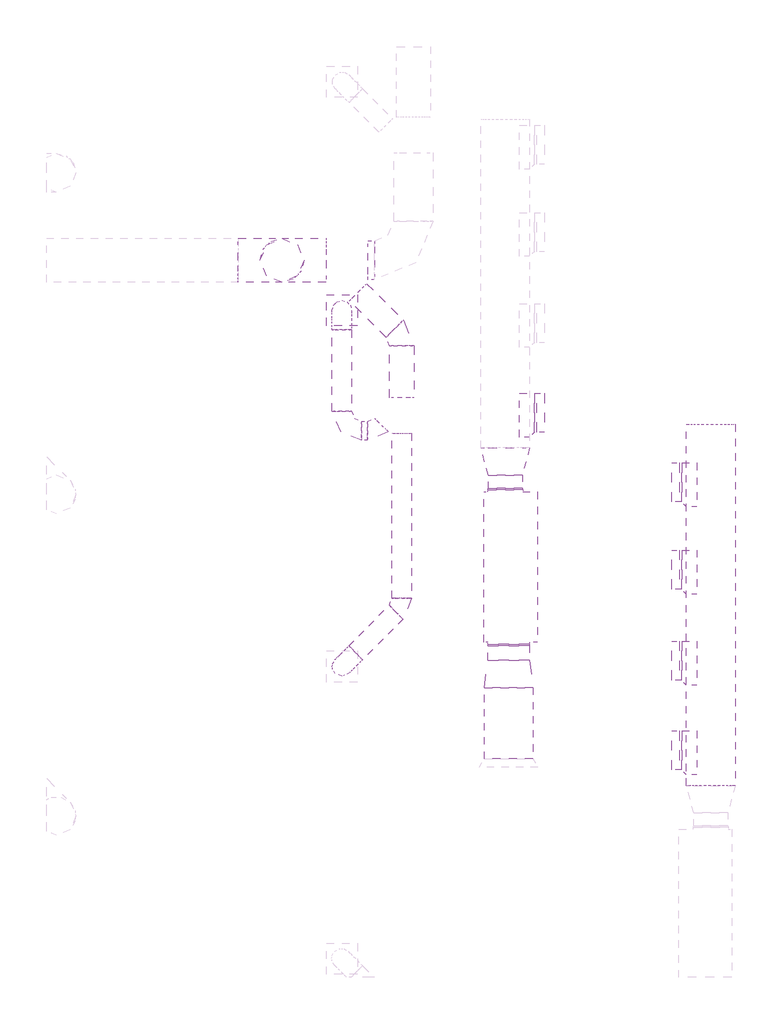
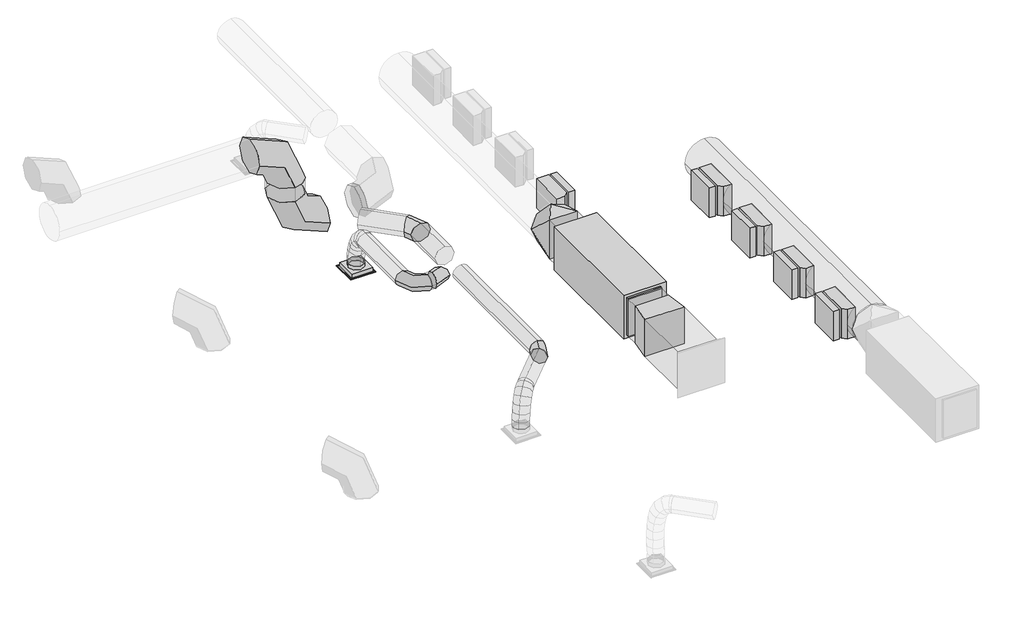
# One storey, part 29 of 33: 19 duct segments, 15 duct fittings, 6 air terminals, 1 proxy.
"""IFC4 building model written with IfcOpenShell, lengths in millimetres."""

from ifc_helpers import new_model, si_unit, point, frame, frame_2d, origin, place, context, project, spatial, polyline, circle_curve, ellipse_curve, trimmed, segment, composite_curve, outline, extrude, transform, mapped, element, save
from ifc_brep_helpers import plane_surface, cylinder_surface, advanced_brep
from components import air_terminal_0721d01d, dsr_dsr_a080a00d, dsr_dsr_0d971771, mechanical_equipment_46469baa, rectangular_tap_beveled_standard_9f1364f6, rectangular_tap_beveled_standard_d607cfb3, rectangular_transition_angle_15_degree_a4915137, rectangular_transition_angle_45_degree_272a0e48, rectangular_transition_angle_45_degree_bff0837c, rectangular_to_round_transition_angle_30_degree_4b8b6557, round_elbow_1_d_a253342a, round_elbow_1_d_ea3dccb8, round_elbow_1_d_ab3aa7ba, round_elbow_1_d_f1b293c8

model = new_model("IFC4")

# Units and contexts
model_context = context("Model", 3, world=origin())
ifc_project = project(units=[si_unit("LENGTHUNIT", "METRE", prefix="MILLI")], contexts=[model_context])

# Site, building, storey
site = spatial("IfcSite", under=ifc_project)
building = spatial("IfcBuilding", under=site)
storey = spatial("IfcBuildingStorey", under=building, Name="T.O. SLAB - 1ST", Elevation=-25.4)

# Air terminals
placement = place(None, origin())
air_terminal_shape = air_terminal_0721d01d(model_context)
element("IfcAirTerminal", 1, ObjectType="Titus-Round_Neck_Supply_Diffuser-PCS_Surface_Mount : PCS AA-08_12x12", at=placement, inside=storey, context=model_context, shape_type="MappedRepresentation", body=[
    mapped(air_terminal_shape, transform((32951.0705131, 16629.0029372, 3022.6), x_axis=(1.0, 0.0, 0.0), y_axis=(0.0, -1.0, 0.0), z_axis=(0.0, 0.0, -1.0))),
])
dsr_dsr_shape = dsr_dsr_a080a00d(model_context)
element("IfcAirTerminal", 2, ObjectType="DSR : DSR", at=placement, inside=storey, context=model_context, shape_type="MappedRepresentation", body=[
    mapped(dsr_dsr_shape, transform((35061.381406, 15559.9856998, 3930.65), x_axis=(0.0, 1.0, 0.0), y_axis=(0.0, 0.0, 1.0), z_axis=(1.0, 0.0, 0.0))),
])
dsr_dsr_2_shape = dsr_dsr_0d971771(model_context)
element("IfcAirTerminal", 3, ObjectType="DSR : DSR", at=placement, inside=storey, context=model_context, shape_type="MappedRepresentation", body=[
    mapped(dsr_dsr_2_shape, transform((36392.592168, 14832.8871563, 3930.65), x_axis=(0.0, 1.0, 0.0), y_axis=(0.0, 0.0, -1.0), z_axis=(-1.0, 0.0, 0.0))),
])
element("IfcAirTerminal", 4, ObjectType="DSR : DSR", at=placement, inside=storey, context=model_context, shape_type="MappedRepresentation", body=[
    mapped(dsr_dsr_2_shape, transform((36392.592168, 13923.8614301, 3930.65), x_axis=(0.0, 1.0, 0.0), y_axis=(0.0, 0.0, -1.0), z_axis=(-1.0, 0.0, 0.0))),
])
element("IfcAirTerminal", 5, ObjectType="DSR : DSR", at=placement, inside=storey, context=model_context, shape_type="MappedRepresentation", body=[
    mapped(dsr_dsr_2_shape, transform((36392.592168, 12975.3129536, 3930.65), x_axis=(0.0, 1.0, 0.0), y_axis=(0.0, 0.0, -1.0), z_axis=(-1.0, 0.0, 0.0))),
])
element("IfcAirTerminal", 6, ObjectType="DSR : DSR", at=placement, inside=storey, context=model_context, shape_type="MappedRepresentation", body=[
    mapped(dsr_dsr_2_shape, transform((36392.592168, 12039.9387589, 3930.65), x_axis=(0.0, 1.0, 0.0), y_axis=(0.0, 0.0, -1.0), z_axis=(-1.0, 0.0, 0.0))),
])

# Proxy
mechanical_equipment_shape = mechanical_equipment_46469baa(model_context)
element("IfcBuildingElementProxy", 7, Name="FC-4 & 5 : FC-4 & 5", ObjectType="FC-4 & 5 : FC-4 & 5", at=placement, inside=storey, context=model_context, shape_type="MappedRepresentation", body=[
    mapped(mechanical_equipment_shape, transform((34711.496406, 13951.738215, 3632.2), x_axis=(1.0, 0.0, 0.0), y_axis=(0.0, 1.0, 0.0), z_axis=(0.0, 0.0, 1.0))),
])

# Duct fittings
rectangular_tap_beveled_standard_shape = rectangular_tap_beveled_standard_9f1364f6(model_context)
element("IfcDuctFitting", 8, ObjectType="Rectangular Tap - Beveled : Standard", at=placement, inside=storey, context=model_context, shape_type="MappedRepresentation", body=[
    mapped(rectangular_tap_beveled_standard_shape, transform((34908.981406, 15559.9856998, 3930.65), x_axis=(1.0, 0.0, 0.0), y_axis=(0.0, -1.0, 0.0), z_axis=(0.0, 0.0, -1.0))),
])
rectangular_tap_beveled_standard_2_shape = rectangular_tap_beveled_standard_d607cfb3(model_context)
element("IfcDuctFitting", 9, ObjectType="Rectangular Tap - Beveled : Standard", at=placement, inside=storey, context=model_context, shape_type="MappedRepresentation", body=[
    mapped(rectangular_tap_beveled_standard_2_shape, transform((36544.992168, 14832.8871563, 3930.65), x_axis=(-1.0, 0.0, 0.0), y_axis=(0.0, 1.0, 0.0), z_axis=(0.0, 0.0, -1.0))),
])
element("IfcDuctFitting", 10, ObjectType="Rectangular Tap - Beveled : Standard", at=placement, inside=storey, context=model_context, shape_type="MappedRepresentation", body=[
    mapped(rectangular_tap_beveled_standard_2_shape, transform((36544.992168, 13923.8614301, 3930.65), x_axis=(-1.0, 0.0, 0.0), y_axis=(0.0, 1.0, 0.0), z_axis=(0.0, 0.0, -1.0))),
])
element("IfcDuctFitting", 11, ObjectType="Rectangular Tap - Beveled : Standard", at=placement, inside=storey, context=model_context, shape_type="MappedRepresentation", body=[
    mapped(rectangular_tap_beveled_standard_2_shape, transform((36544.992168, 12975.3129536, 3930.65), x_axis=(-1.0, 0.0, 0.0), y_axis=(0.0, 1.0, 0.0), z_axis=(0.0, 0.0, -1.0))),
])
element("IfcDuctFitting", 12, ObjectType="Rectangular Tap - Beveled : Standard", at=placement, inside=storey, context=model_context, shape_type="MappedRepresentation", body=[
    mapped(rectangular_tap_beveled_standard_2_shape, transform((36544.992168, 12039.9387589, 3930.65), x_axis=(-1.0, 0.0, 0.0), y_axis=(0.0, 1.0, 0.0), z_axis=(0.0, 0.0, -1.0))),
])
rectangular_transition_angle_15_degree_shape = rectangular_transition_angle_15_degree_a4915137(model_context)
element("IfcDuctFitting", 13, ObjectType="Rectangular Transition - Angle : 15 Degree", at=placement, inside=storey, context=model_context, shape_type="MappedRepresentation", body=[
    mapped(rectangular_transition_angle_15_degree_shape, transform((34690.541406, 12691.4038673, 3930.65), x_axis=(0.0, 1.0, 0.0), y_axis=(-1.0, 0.0, 0.0), z_axis=(0.0, 0.0, 1.0))),
])
rectangular_transition_angle_45_degree_shape = rectangular_transition_angle_45_degree_272a0e48(model_context)
element("IfcDuctFitting", 14, ObjectType="Rectangular Transition - Angle : 45 Degree", at=placement, inside=storey, context=model_context, shape_type="MappedRepresentation", body=[
    mapped(rectangular_transition_angle_45_degree_shape, transform((34654.981406, 14758.0507959, 3930.65), x_axis=(0.0, 1.0, 0.0), y_axis=(-1.0, 0.0, 0.0), z_axis=(0.0, 0.0, 1.0))),
])
rectangular_transition_angle_45_degree_2_shape = rectangular_transition_angle_45_degree_bff0837c(model_context)
element("IfcDuctFitting", 15, ObjectType="Rectangular Transition - Angle : 45 Degree", at=placement, inside=storey, context=model_context, shape_type="MappedRepresentation", body=[
    mapped(rectangular_transition_angle_45_degree_2_shape, transform((34690.541406, 13145.4256341, 3930.65), x_axis=(0.0, -1.0, 0.0), y_axis=(1.0, 0.0, 0.0), z_axis=(0.0, 0.0, 1.0))),
])
rectangular_to_round_transition_angle_30_degree_shape = rectangular_to_round_transition_angle_30_degree_4b8b6557(model_context)
element("IfcDuctFitting", 16, ObjectType="Rectangular to Round Transition - Angle : 30 Degree", at=placement, inside=storey, context=model_context, shape_type="MappedRepresentation", body=[
    mapped(rectangular_to_round_transition_angle_30_degree_shape, transform((34654.981406, 14908.2895677, 3930.65), x_axis=(0.0, 1.0, 0.0), y_axis=(-1.0, 0.0, 0.0), z_axis=(0.0, 0.0, 1.0))),
])
round_elbow_1_d_shape = round_elbow_1_d_a253342a(model_context)
element("IfcDuctFitting", 17, ObjectType="Round Elbow : 1 D", at=placement, inside=storey, context=model_context, shape_type="MappedRepresentation", body=[
    mapped(round_elbow_1_d_shape, transform((32951.6414036, 15372.3897763, 3530.6), x_axis=(0.0, -1.0, 0.0), y_axis=(1.0, 0.0, 0.0), z_axis=(0.0, 0.0, 1.0))),
])
round_elbow_1_d_2_shape = round_elbow_1_d_ea3dccb8(model_context)
element("IfcDuctFitting", 18, ObjectType="Round Elbow : 1 D", at=placement, inside=storey, context=model_context, shape_type="MappedRepresentation", body=[
    mapped(round_elbow_1_d_2_shape, transform((33576.0342203, 16361.2503194, 3530.6), x_axis=(0.0, 1.0, 0.0), y_axis=(-1.0, 0.0, 0.0), z_axis=(0.0, 0.0, 1.0))),
])
round_elbow_1_d_3_shape = round_elbow_1_d_ab3aa7ba(model_context)
element("IfcDuctFitting", 19, ObjectType="Round Elbow : 1 D", at=placement, inside=storey, context=model_context, shape_type="MappedRepresentation", body=[
    mapped(round_elbow_1_d_3_shape, transform((33303.6729086, 15372.3897763, 3530.6), x_axis=(1.0, 0.0, 0.0), y_axis=(0.0, 1.0, 0.0), z_axis=(0.0, 0.0, 1.0))),
])
element("IfcDuctFitting", 20, ObjectType="Round Elbow : 1 D", at=placement, inside=storey, context=model_context, shape_type="MappedRepresentation", body=[
    mapped(round_elbow_1_d_3_shape, transform((33576.0342203, 13539.3849143, 3530.6), x_axis=(0.7071067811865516, 0.7071067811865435, 0.0), y_axis=(-0.7071067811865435, 0.7071067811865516, 0.0), z_axis=(0.0, 0.0, 1.0))),
])
round_elbow_1_d_4_shape = round_elbow_1_d_f1b293c8(model_context)
element("IfcDuctFitting", 21, ObjectType="Round Elbow : 1 D", at=placement, inside=storey, context=model_context, shape_type="MappedRepresentation", body=[
    mapped(round_elbow_1_d_4_shape, transform((32326.0472899, 17149.3079464, 4635.5), x_axis=(1.0, 0.0, 0.0), y_axis=(0.0, 0.0, -1.0), z_axis=(0.0, 1.0, 0.0))),
])
element("IfcDuctFitting", 22, ObjectType="Round Elbow : 1 D", at=placement, inside=storey, context=model_context, shape_type="MappedRepresentation", body=[
    mapped(round_elbow_1_d_4_shape, transform((32326.0472899, 17149.3079464, 3530.6), x_axis=(0.0, 0.0, -1.0), y_axis=(1.0, 0.0, 0.0), z_axis=(0.0, -1.0, 0.0))),
])

# Duct segments
element("IfcDuctSegment", 23, ObjectType="Flex - Rectangular", at=placement, inside=storey, context=model_context, shape_type="SweptSolid", body=[
    extrude(outline(polyline([(34832.781406, 14773.3810521), (34477.181406, 14773.3810521), (34477.181406, 14908.2895677), (34832.781406, 14908.2895677), (34832.781406, 14773.3810521)])), frame((0.0, 0.0, 3663.95), z_axis=(0.0, 0.0, 1.0), x_axis=(1.0, 0.0, 0.0)), (0.0, 0.0, 1.0), 533.4),
])
element("IfcDuctSegment", 24, ObjectType="Flex - Rectangular", at=placement, inside=storey, context=model_context, shape_type="SweptSolid", body=[
    extrude(outline(polyline([(34906.441406, 12980.802099), (34474.641406, 12980.802099), (34474.641406, 13130.095378), (34906.441406, 13130.095378), (34906.441406, 12980.802099)])), frame((0.0, 0.0, 3676.65), z_axis=(0.0, 0.0, 1.0), x_axis=(1.0, 0.0, 0.0)), (0.0, 0.0, 1.0), 508.0),
])
element("IfcDuctSegment", 25, ObjectType="Flex - Round", at=placement, inside=storey, context=model_context, shape_type="AdvancedBrep", body=[
    advanced_brep(
    [(32850.0414036, 16425.8031526, 3530.6), (32951.6414036, 16425.8031526, 3429.0), (33053.2414036, 16425.8031526, 3530.6), (32951.6414036, 16425.8031526, 3632.2), (32850.0414036, 16454.2054732, 3530.6), (32951.6414036, 16430.2701781, 3429.0), (33053.2414036, 16454.3072904, 3530.6), (32951.6414036, 16478.2425855, 3632.2), (32849.4706511, 16628.8354892, 3117.85), (32950.9030651, 16730.6027992, 3117.85), (33052.6703751, 16629.1703851, 3117.85), (32951.237961, 16527.4030752, 3117.85), (32849.9991929, 16493.978466, 3510.7119249), (32951.6377519, 16433.7109817, 3427.2794616), (33053.1990379, 16494.2263372, 3510.6388922), (32951.5604789, 16554.4938215, 3594.0713555), (32849.8935498, 16546.4788818, 3457.7443933), (32951.5785063, 16463.1536534, 3397.5748275), (33053.09324, 16546.8036522, 3457.593777), (32951.4082835, 16630.1288807, 3517.7633428), (32849.7561604, 16584.7347152, 3381.8336091), (32951.4824789, 16489.8923263, 3344.5174647), (33052.9557562, 16585.0857869, 3381.6308033), (32951.2294377, 16679.9281758, 3418.9469477), (32849.6187196, 16610.2251003, 3293.1146354), (32951.368739, 16510.9870335, 3271.097594), (33052.8183238, 16610.5746116, 3292.9172607), (32951.0683044, 16709.8126784, 3314.9343021), (32849.5129637, 16624.4305892, 3201.7395505), (32951.2760322, 16523.4397298, 3190.9971355), (33052.7126388, 16624.7705786, 3201.6034239), (32950.9495703, 16725.7614381, 3212.3458389), (32849.4706511, 16628.8354892, 3123.201647), (32951.237961, 16527.4030752, 3120.3320042), (33052.6703751, 16629.1703851, 3123.1563368), (32950.9030651, 16730.6027992, 3126.0259796)],
    [
        (0, 1, circle_curve(frame((32951.6414036, 16425.8031526, 3530.6), z_axis=(0.0, -1.0, 0.0), x_axis=(-1.0, 0.0, 0.0)), 101.6)),
        (1, 2, circle_curve(frame((32951.6414036, 16425.8031526, 3530.6), z_axis=(0.0, -1.0, 0.0), x_axis=(-1.0, 0.0, 0.0)), 101.6)),
        (2, 3, circle_curve(frame((32951.6414036, 16425.8031526, 3530.6), z_axis=(0.0, -1.0, 0.0), x_axis=(-1.0, 0.0, 0.0)), 101.6)),
        (3, 0, circle_curve(frame((32951.6414036, 16425.8031526, 3530.6), z_axis=(0.0, -1.0, 0.0), x_axis=(-1.0, 0.0, 0.0)), 101.6)),
        (0, 4),
        (4, 5, ellipse_curve(frame((32951.6414036, 16454.2563818, 3530.6), z_axis=(0.00048766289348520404, -0.9732452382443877, 0.22976829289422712), x_axis=(-0.0020656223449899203, -0.2297688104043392, -0.9732430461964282)), 104.3930101, 101.6)),
        (5, 1),
        (5, 6, ellipse_curve(frame((32951.6414036, 16454.2563818, 3530.6), z_axis=(0.00048766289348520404, -0.9732452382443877, 0.22976829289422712), x_axis=(-0.0020656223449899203, -0.2297688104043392, -0.9732430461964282)), 104.3930101, 101.6)),
        (6, 2),
        (6, 7, ellipse_curve(frame((32951.6414036, 16454.2563818, 3530.6), z_axis=(0.00048766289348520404, -0.9732452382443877, 0.22976829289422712), x_axis=(-0.0020656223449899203, -0.2297688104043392, -0.9732430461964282)), 104.3930101, 101.6)),
        (7, 3),
        (7, 4, ellipse_curve(frame((32951.6414036, 16454.2563818, 3530.6), z_axis=(0.00048766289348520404, -0.9732452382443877, 0.22976829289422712), x_axis=(-0.0020656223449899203, -0.2297688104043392, -0.9732430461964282)), 104.3930101, 101.6)),
        (8, 9, circle_curve(frame((32951.0705131, 16629.0029372, 3117.85), z_axis=(0.0, 0.0, -1.0), x_axis=(-0.9999986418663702, -0.0016481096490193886, 0.0)), 101.6)),
        (9, 10, circle_curve(frame((32951.0705131, 16629.0029372, 3117.85), z_axis=(0.0, 0.0, -1.0), x_axis=(-0.9999986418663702, -0.0016481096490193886, 0.0)), 101.6)),
        (10, 11, circle_curve(frame((32951.0705131, 16629.0029372, 3117.85), z_axis=(0.0, 0.0, -1.0), x_axis=(-0.9999986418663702, -0.0016481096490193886, 0.0)), 101.6)),
        (11, 8, circle_curve(frame((32951.0705131, 16629.0029372, 3117.85), z_axis=(0.0, 0.0, -1.0), x_axis=(-0.9999986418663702, -0.0016481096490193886, 0.0)), 101.6)),
        (4, 12),
        (12, 13, ellipse_curve(frame((32951.5991154, 16494.1024016, 3510.6754086), z_axis=(0.0011987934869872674, -0.8099355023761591, 0.5865177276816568), x_axis=(-0.0014392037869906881, -0.5865189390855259, -0.8099342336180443)), 102.9660624, 101.6)),
        (13, 5),
        (13, 14, ellipse_curve(frame((32951.5991154, 16494.1024016, 3510.6754086), z_axis=(0.0011987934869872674, -0.8099355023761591, 0.5865177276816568), x_axis=(-0.0014392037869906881, -0.5865189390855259, -0.8099342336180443)), 102.9660624, 101.6)),
        (14, 6),
        (14, 15, ellipse_curve(frame((32951.5991154, 16494.1024016, 3510.6754086), z_axis=(0.0011987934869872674, -0.8099355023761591, 0.5865177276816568), x_axis=(-0.0014392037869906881, -0.5865189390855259, -0.8099342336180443)), 102.9660624, 101.6)),
        (15, 7),
        (15, 12, ellipse_curve(frame((32951.5991154, 16494.1024016, 3510.6754086), z_axis=(0.0011987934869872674, -0.8099355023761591, 0.5865177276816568), x_axis=(-0.0014392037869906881, -0.5865189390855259, -0.8099342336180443)), 102.9660624, 101.6)),
        (12, 16),
        (16, 17, ellipse_curve(frame((32951.4933949, 16546.641267, 3457.6690851), z_axis=(0.0015352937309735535, -0.5841952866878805, 0.811611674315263), x_axis=(-0.0006382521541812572, -0.811613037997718, -0.5841950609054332)), 102.8664632, 101.6)),
        (17, 13),
        (17, 18, ellipse_curve(frame((32951.4933949, 16546.641267, 3457.6690851), z_axis=(0.0015352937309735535, -0.5841952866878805, 0.811611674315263), x_axis=(-0.0006382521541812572, -0.811613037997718, -0.5841950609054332)), 102.8664632, 101.6)),
        (18, 14),
        (18, 19, ellipse_curve(frame((32951.4933949, 16546.641267, 3457.6690851), z_axis=(0.0015352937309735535, -0.5841952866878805, 0.811611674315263), x_axis=(-0.0006382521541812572, -0.811613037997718, -0.5841950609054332)), 102.8664632, 101.6)),
        (19, 15),
        (19, 16, ellipse_curve(frame((32951.4933949, 16546.641267, 3457.6690851), z_axis=(0.0015352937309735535, -0.5841952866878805, 0.811611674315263), x_axis=(-0.0006382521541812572, -0.811613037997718, -0.5841950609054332)), 102.8664632, 101.6)),
        (16, 20),
        (20, 21, ellipse_curve(frame((32951.3559583, 16584.9102511, 3381.7322062), z_axis=(0.0015593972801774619, -0.36468445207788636, 0.9311298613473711), x_axis=(0.0006816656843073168, -0.9311303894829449, -0.36468580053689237)), 102.0458674, 101.6)),
        (21, 17),
        (21, 22, ellipse_curve(frame((32951.3559583, 16584.9102511, 3381.7322062), z_axis=(0.0015593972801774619, -0.36468445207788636, 0.9311298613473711), x_axis=(0.0006816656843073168, -0.9311303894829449, -0.36468580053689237)), 102.0458674, 101.6)),
        (22, 18),
        (22, 23, ellipse_curve(frame((32951.3559583, 16584.9102511, 3381.7322062), z_axis=(0.0015593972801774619, -0.36468445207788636, 0.9311298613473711), x_axis=(0.0006816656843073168, -0.9311303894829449, -0.36468580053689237)), 102.0458674, 101.6)),
        (23, 19),
        (23, 20, ellipse_curve(frame((32951.3559583, 16584.9102511, 3381.7322062), z_axis=(0.0015593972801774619, -0.36468445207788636, 0.9311298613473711), x_axis=(0.0006816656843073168, -0.9311303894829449, -0.36468580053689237)), 102.0458674, 101.6)),
        (20, 24),
        (24, 25, ellipse_curve(frame((32951.2185217, 16610.399856, 3293.0159481), z_axis=(0.0013188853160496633, -0.2153050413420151, 0.9765459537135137), x_axis=(0.002751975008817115, -0.9765423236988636, -0.21530795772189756)), 101.8005213, 101.6)),
        (25, 21),
        (25, 26, ellipse_curve(frame((32951.2185217, 16610.399856, 3293.0159481), z_axis=(0.0013188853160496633, -0.2153050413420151, 0.9765459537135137), x_axis=(0.002751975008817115, -0.9765423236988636, -0.21530795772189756)), 101.8005213, 101.6)),
        (26, 22),
        (26, 27, ellipse_curve(frame((32951.2185217, 16610.399856, 3293.0159481), z_axis=(0.0013188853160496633, -0.2153050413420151, 0.9765459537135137), x_axis=(0.002751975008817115, -0.9765423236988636, -0.21530795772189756)), 101.8005213, 101.6)),
        (27, 23),
        (27, 24, ellipse_curve(frame((32951.2185217, 16610.399856, 3293.0159481), z_axis=(0.0013188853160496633, -0.2153050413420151, 0.9765459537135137), x_axis=(0.002751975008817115, -0.9765423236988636, -0.21530795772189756)), 101.8005213, 101.6)),
        (24, 28),
        (28, 29, ellipse_curve(frame((32951.1128012, 16624.6005839, 3201.6714872), z_axis=(0.0008417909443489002, -0.10493464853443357, 0.9944787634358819), x_axis=(0.006170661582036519, -0.9944596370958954, -0.10493785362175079)), 101.7226001, 101.6)),
        (29, 25),
        (29, 30, ellipse_curve(frame((32951.1128012, 16624.6005839, 3201.6714872), z_axis=(0.0008417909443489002, -0.10493464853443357, 0.9944787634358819), x_axis=(0.006170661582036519, -0.9944596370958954, -0.10493785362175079)), 101.7226001, 101.6)),
        (30, 26),
        (30, 31, ellipse_curve(frame((32951.1128012, 16624.6005839, 3201.6714872), z_axis=(0.0008417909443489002, -0.10493464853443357, 0.9944787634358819), x_axis=(0.006170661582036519, -0.9944596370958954, -0.10493785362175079)), 101.7226001, 101.6)),
        (31, 27),
        (31, 28, ellipse_curve(frame((32951.1128012, 16624.6005839, 3201.6714872), z_axis=(0.0008417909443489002, -0.10493464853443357, 0.9944787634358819), x_axis=(0.006170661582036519, -0.9944596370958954, -0.10493785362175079)), 101.7226001, 101.6)),
        (28, 32),
        (32, 33, ellipse_curve(frame((32951.0705131, 16629.0029372, 3123.1789919), z_axis=(0.000269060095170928, -0.02801013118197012, 0.99960760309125), x_axis=(0.009601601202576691, -0.9995614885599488, -0.028011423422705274)), 101.6398832, 101.6)),
        (33, 29),
        (33, 34, ellipse_curve(frame((32951.0705131, 16629.0029372, 3123.1789919), z_axis=(0.000269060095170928, -0.02801013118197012, 0.99960760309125), x_axis=(0.009601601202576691, -0.9995614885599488, -0.028011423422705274)), 101.6398832, 101.6)),
        (34, 30),
        (34, 35, ellipse_curve(frame((32951.0705131, 16629.0029372, 3123.1789919), z_axis=(0.000269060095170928, -0.02801013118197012, 0.99960760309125), x_axis=(0.009601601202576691, -0.9995614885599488, -0.028011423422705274)), 101.6398832, 101.6)),
        (35, 31),
        (35, 32, ellipse_curve(frame((32951.0705131, 16629.0029372, 3123.1789919), z_axis=(0.000269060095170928, -0.02801013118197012, 0.99960760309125), x_axis=(0.009601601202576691, -0.9995614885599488, -0.028011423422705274)), 101.6398832, 101.6)),
        (32, 8),
        (11, 33),
        (10, 34),
        (9, 35),
    ],
    [
        plane_surface(frame((32850.0414036, 16425.8031526, 3530.6), z_axis=(0.0, -1.0, 0.0), x_axis=(0.0, 0.0, 1.0))),
        cylinder_surface(frame((32951.6414036, 16425.8031526, 3530.6), z_axis=(0.0, -1.0, 0.0), x_axis=(-1.0, 0.0, 0.0)), 101.6),
        plane_surface(frame((32951.0705131, 16527.4029372, 3117.85), z_axis=(0.0, 0.0, -1.0), x_axis=(-1.0, 0.0, 0.0))),
        cylinder_surface(frame((32951.6414036, 16454.2563818, 3530.6), z_axis=(0.0009492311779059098, -0.89441258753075, 0.44724179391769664), x_axis=(-0.9999995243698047, -0.0009492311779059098, 0.00022409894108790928)), 101.6),
        cylinder_surface(frame((32951.5991154, 16494.1024016, 3510.6754086), z_axis=(0.001416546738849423, -0.7039674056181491, 0.7102308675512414), x_axis=(-0.9999988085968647, -0.0014328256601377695, 0.0005742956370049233)), 101.6),
        cylinder_surface(frame((32951.4933949, 16546.641267, 3457.6690851), z_axis=(0.0016162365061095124, -0.45003826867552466, 0.8930078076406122), x_axis=(-0.9999980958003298, -0.0017040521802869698, 0.0009511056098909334)), 101.6),
        cylinder_surface(frame((32951.3559583, 16584.9102511, 3381.7322062), z_axis=(0.0014889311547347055, -0.2761438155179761, 0.961115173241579), x_axis=(-0.9999979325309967, -0.0017422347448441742, 0.0010485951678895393)), 101.6),
        cylinder_surface(frame((32951.2185217, 16610.399856, 3293.0159481), z_axis=(0.0011436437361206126, -0.15361807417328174, 0.988129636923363), x_axis=(-0.9999981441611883, -0.0017076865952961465, 0.000891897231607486)), 101.6),
        cylinder_surface(frame((32951.1128012, 16624.6005839, 3201.6714872), z_axis=(0.0005379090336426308, -0.05599828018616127, 0.9984307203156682), x_axis=(-0.9999985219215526, -0.0016605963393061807, 0.00044561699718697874)), 101.6),
        cylinder_surface(frame((32951.0705131, 16629.0029372, 3123.1789919), z_axis=(0.0, 0.0, 1.0000000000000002), x_axis=(-0.9999986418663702, -0.0016481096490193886, 0.0)), 101.6),
    ],
    [
        (0, [[1, 2, 3, 4]]),
        (1, [[-1, 5, 6, 7]]),
        (1, [[-2, -7, 8, 9]]),
        (1, [[-3, -9, 10, 11]]),
        (1, [[-4, -11, 12, -5]]),
        (2, [[13, 14, 15, 16]]),
        (3, [[-6, 17, 18, 19]]),
        (3, [[-8, -19, 20, 21]]),
        (3, [[-10, -21, 22, 23]]),
        (3, [[-12, -23, 24, -17]]),
        (4, [[-18, 25, 26, 27]]),
        (4, [[-20, -27, 28, 29]]),
        (4, [[-22, -29, 30, 31]]),
        (4, [[-24, -31, 32, -25]]),
        (5, [[-26, 33, 34, 35]]),
        (5, [[-28, -35, 36, 37]]),
        (5, [[-30, -37, 38, 39]]),
        (5, [[-32, -39, 40, -33]]),
        (6, [[-34, 41, 42, 43]]),
        (6, [[-36, -43, 44, 45]]),
        (6, [[-38, -45, 46, 47]]),
        (6, [[-40, -47, 48, -41]]),
        (7, [[-42, 49, 50, 51]]),
        (7, [[-44, -51, 52, 53]]),
        (7, [[-46, -53, 54, 55]]),
        (7, [[-48, -55, 56, -49]]),
        (8, [[-50, 57, 58, 59]]),
        (8, [[-52, -59, 60, 61]]),
        (8, [[-54, -61, 62, 63]]),
        (8, [[-56, -63, 64, -57]]),
        (9, [[-58, 65, -16, 66]]),
        (9, [[-60, -66, -15, 67]]),
        (9, [[-62, -67, -14, 68]]),
        (9, [[-64, -68, -13, -65]]),
    ],
),
])
element("IfcDuctSegment", 26, ObjectType="Flex - Round", at=placement, inside=storey, context=model_context, shape_type="AdvancedBrep", body=[
    advanced_brep(
    [(33166.5964553, 12986.2630515, 3530.6), (33094.7544064, 13058.1051004, 3429.0), (33022.9123574, 13129.9471494, 3530.6), (33094.7544064, 13058.1051004, 3632.2), (33146.4769664, 12966.1435625, 3530.6), (33091.5957579, 13054.946452, 3429.0), (33002.7928591, 13109.8276511, 3530.6), (33057.6740675, 13021.0247616, 3632.2), (33022.9125774, 12842.5790688, 3117.85), (32879.2284794, 12842.5790381, 3117.85), (32879.2284487, 12986.2631361, 3117.85), (33022.9125467, 12986.2631668, 3117.85), (33118.3016374, 12937.9682258, 3510.6754051), (33089.1628222, 13052.5135156, 3427.279514), (32974.6175168, 13081.652301, 3510.6753956), (33003.7563319, 12967.1070112, 3594.0712867), (33081.1510707, 12900.8176397, 3457.6690687), (33068.3437399, 13031.6944225, 3397.574899), (32937.466943, 13044.5017079, 3457.6690491), (32950.2742738, 12913.6249251, 3517.7632188), (33054.0908206, 12873.7573644, 3381.7321751), (33049.4366633, 13012.7873282, 3344.5175672), (32910.4066905, 13017.4414302, 3381.7321488), (32915.0608478, 12878.4114664, 3418.9467566), (33036.0669479, 12855.7334665, 3293.0159084), (33034.5204529, 12997.871097, 3271.0976913), (32892.3828179, 12999.4175324, 3293.0158828), (32893.929313, 12857.279902, 3314.9340999), (33026.0255134, 12845.6920126, 3201.671455), (33025.7150604, 12989.0656874, 3190.9972072), (32882.3413843, 12989.3760794, 3201.6714374), (32882.6518373, 12846.0024045, 3212.3456852), (33022.9125774, 12842.5790688, 3123.1787622), (33022.9125467, 12986.2631668, 3120.3318142), (32879.2284487, 12986.2631361, 3123.1787563), (32879.2284794, 12842.5790381, 3126.0257042)],
    [
        (0, 1, circle_curve(frame((33094.7544064, 13058.1051004, 3530.6), z_axis=(0.7071067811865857, 0.7071067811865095, 0.0), x_axis=(0.7071067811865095, -0.7071067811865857, 0.0)), 101.6)),
        (1, 2, circle_curve(frame((33094.7544064, 13058.1051004, 3530.6), z_axis=(0.7071067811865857, 0.7071067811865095, 0.0), x_axis=(0.7071067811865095, -0.7071067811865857, 0.0)), 101.6)),
        (2, 3, circle_curve(frame((33094.7544064, 13058.1051004, 3530.6), z_axis=(0.7071067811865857, 0.7071067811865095, 0.0), x_axis=(0.7071067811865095, -0.7071067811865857, 0.0)), 101.6)),
        (3, 0, circle_curve(frame((33094.7544064, 13058.1051004, 3530.6), z_axis=(0.7071067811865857, 0.7071067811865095, 0.0), x_axis=(0.7071067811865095, -0.7071067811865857, 0.0)), 101.6)),
        (0, 4),
        (4, 5, ellipse_curve(frame((33074.6349127, 13037.9856068, 3530.6), z_axis=(0.6881882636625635, 0.688188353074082, 0.22976880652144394), x_axis=(0.16247127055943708, 0.16247089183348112, -0.9732452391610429)), 104.39301, 101.6)),
        (5, 1),
        (5, 6, ellipse_curve(frame((33074.6349127, 13037.9856068, 3530.6), z_axis=(0.6881882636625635, 0.688188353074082, 0.22976880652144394), x_axis=(0.16247127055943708, 0.16247089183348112, -0.9732452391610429)), 104.39301, 101.6)),
        (6, 2),
        (6, 7, ellipse_curve(frame((33074.6349127, 13037.9856068, 3530.6), z_axis=(0.6881882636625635, 0.688188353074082, 0.22976880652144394), x_axis=(0.16247127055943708, 0.16247089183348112, -0.9732452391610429)), 104.39301, 101.6)),
        (7, 3),
        (7, 4, ellipse_curve(frame((33074.6349127, 13037.9856068, 3530.6), z_axis=(0.6881882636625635, 0.688188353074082, 0.22976880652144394), x_axis=(0.16247127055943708, 0.16247089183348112, -0.9732452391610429)), 104.39301, 101.6)),
        (8, 9, circle_curve(frame((32951.0705131, 12914.4211025, 3117.85), z_axis=(0.0, 0.0, -1.0), x_axis=(0.7071069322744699, -0.7071066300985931, 0.0)), 101.6)),
        (9, 10, circle_curve(frame((32951.0705131, 12914.4211025, 3117.85), z_axis=(0.0, 0.0, -1.0), x_axis=(0.7071069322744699, -0.7071066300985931, 0.0)), 101.6)),
        (10, 11, circle_curve(frame((32951.0705131, 12914.4211025, 3117.85), z_axis=(0.0, 0.0, -1.0), x_axis=(0.7071069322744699, -0.7071066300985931, 0.0)), 101.6)),
        (11, 8, circle_curve(frame((32951.0705131, 12914.4211025, 3117.85), z_axis=(0.0, 0.0, -1.0), x_axis=(0.7071069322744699, -0.7071066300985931, 0.0)), 101.6)),
        (4, 12),
        (12, 13, ellipse_curve(frame((33046.4595771, 13009.8102634, 3510.6754004), z_axis=(0.5727109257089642, 0.5727111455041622, 0.586518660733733), x_axis=(0.4147314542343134, 0.4147311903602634, -0.8099357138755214)), 102.9660563, 101.6)),
        (13, 5),
        (13, 14, ellipse_curve(frame((33046.4595771, 13009.8102634, 3510.6754004), z_axis=(0.5727109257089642, 0.5727111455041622, 0.586518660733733), x_axis=(0.4147314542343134, 0.4147311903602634, -0.8099357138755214)), 102.9660563, 101.6)),
        (14, 6),
        (14, 15, ellipse_curve(frame((33046.4595771, 13009.8102634, 3510.6754004), z_axis=(0.5727109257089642, 0.5727111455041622, 0.586518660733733), x_axis=(0.4147314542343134, 0.4147311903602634, -0.8099357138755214)), 102.9660563, 101.6)),
        (15, 7),
        (15, 12, ellipse_curve(frame((33046.4595771, 13009.8102634, 3510.6754004), z_axis=(0.5727109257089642, 0.5727111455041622, 0.586518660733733), x_axis=(0.4147314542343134, 0.4147311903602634, -0.8099357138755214)), 102.9660563, 101.6)),
        (12, 16),
        (16, 17, ellipse_curve(frame((33009.3090069, 12972.6596738, 3457.6690589), z_axis=(0.41308869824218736, 0.41308897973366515, 0.8116127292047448), x_axis=(0.5738969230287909, 0.573896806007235, -0.5841958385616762)), 102.8664635, 101.6)),
        (17, 13),
        (17, 18, ellipse_curve(frame((33009.3090069, 12972.6596738, 3457.6690589), z_axis=(0.41308869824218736, 0.41308897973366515, 0.8116127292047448), x_axis=(0.5738969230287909, 0.573896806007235, -0.5841958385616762)), 102.8664635, 101.6)),
        (18, 14),
        (18, 19, ellipse_curve(frame((33009.3090069, 12972.6596738, 3457.6690589), z_axis=(0.41308869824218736, 0.41308897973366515, 0.8116127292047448), x_axis=(0.5738969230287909, 0.573896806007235, -0.5841958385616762)), 102.8664635, 101.6)),
        (19, 15),
        (19, 16, ellipse_curve(frame((33009.3090069, 12972.6596738, 3457.6690589), z_axis=(0.41308869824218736, 0.41308897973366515, 0.8116127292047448), x_axis=(0.5738969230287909, 0.573896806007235, -0.5841958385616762)), 102.8664635, 101.6)),
        (16, 20),
        (20, 21, ellipse_curve(frame((32982.2487556, 12945.5993973, 3381.7321619), z_axis=(0.25787107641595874, 0.25787136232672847, 0.9311309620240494), x_axis=(0.6584089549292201, 0.6584090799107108, -0.364684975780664)), 102.0458674, 101.6)),
        (21, 17),
        (21, 22, ellipse_curve(frame((32982.2487556, 12945.5993973, 3381.7321619), z_axis=(0.25787107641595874, 0.25787136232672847, 0.9311309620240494), x_axis=(0.6584089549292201, 0.6584090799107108, -0.364684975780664)), 102.0458674, 101.6)),
        (22, 18),
        (22, 23, ellipse_curve(frame((32982.2487556, 12945.5993973, 3381.7321619), z_axis=(0.25787107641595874, 0.25787136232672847, 0.9311309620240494), x_axis=(0.6584089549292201, 0.6584090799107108, -0.364684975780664)), 102.0458674, 101.6)),
        (23, 19),
        (23, 20, ellipse_curve(frame((32982.2487556, 12945.5993973, 3381.7321619), z_axis=(0.25787107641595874, 0.25787136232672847, 0.9311309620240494), x_axis=(0.6584089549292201, 0.6584090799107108, -0.364684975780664)), 102.0458674, 101.6)),
        (20, 24),
        (24, 25, ellipse_curve(frame((32964.2248829, 12927.5754995, 3293.0158956), z_axis=(0.15224380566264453, 0.15224404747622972, 0.9765467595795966), x_axis=(0.6905225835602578, 0.6905230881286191, -0.21530542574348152)), 101.80052, 101.6)),
        (25, 21),
        (25, 26, ellipse_curve(frame((32964.2248829, 12927.5754995, 3293.0158956), z_axis=(0.15224380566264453, 0.15224404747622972, 0.9765467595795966), x_axis=(0.6905225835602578, 0.6905230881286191, -0.21530542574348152)), 101.80052, 101.6)),
        (26, 22),
        (26, 27, ellipse_curve(frame((32964.2248829, 12927.5754995, 3293.0158956), z_axis=(0.15224380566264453, 0.15224404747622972, 0.9765467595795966), x_axis=(0.6905225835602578, 0.6905230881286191, -0.21530542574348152)), 101.80052, 101.6)),
        (27, 23),
        (27, 24, ellipse_curve(frame((32964.2248829, 12927.5754995, 3293.0158956), z_axis=(0.15224380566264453, 0.15224404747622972, 0.9765467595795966), x_axis=(0.6905225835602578, 0.6905230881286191, -0.21530542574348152)), 101.80052, 101.6)),
        (24, 28),
        (28, 29, ellipse_curve(frame((32954.1834488, 12917.534046, 3201.6714462), z_axis=(0.07420002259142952, 0.07420017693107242, 0.9944791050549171), x_axis=(0.7032023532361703, 0.7032034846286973, -0.10493478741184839)), 101.7225961, 101.6)),
        (29, 25),
        (29, 30, ellipse_curve(frame((32954.1834488, 12917.534046, 3201.6714462), z_axis=(0.07420002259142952, 0.07420017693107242, 0.9944791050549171), x_axis=(0.7032023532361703, 0.7032034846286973, -0.10493478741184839)), 101.7225961, 101.6)),
        (30, 26),
        (30, 31, ellipse_curve(frame((32954.1834488, 12917.534046, 3201.6714462), z_axis=(0.07420002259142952, 0.07420017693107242, 0.9944791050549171), x_axis=(0.7032023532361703, 0.7032034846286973, -0.10493478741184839)), 101.7225961, 101.6)),
        (31, 27),
        (31, 28, ellipse_curve(frame((32954.1834488, 12917.534046, 3201.6714462), z_axis=(0.07420002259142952, 0.07420017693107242, 0.9944791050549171), x_axis=(0.7032023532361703, 0.7032034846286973, -0.10493478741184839)), 101.7225961, 101.6)),
        (28, 32),
        (32, 33, ellipse_curve(frame((32951.0705131, 12914.4211025, 3123.1787592), z_axis=(0.019806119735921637, 0.019806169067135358, 0.9996076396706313), x_axis=(0.7068284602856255, 0.7068302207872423, -0.028010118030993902)), 101.6398795, 101.6)),
        (33, 29),
        (33, 34, ellipse_curve(frame((32951.0705131, 12914.4211025, 3123.1787592), z_axis=(0.019806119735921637, 0.019806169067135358, 0.9996076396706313), x_axis=(0.7068284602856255, 0.7068302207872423, -0.028010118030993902)), 101.6398795, 101.6)),
        (34, 30),
        (34, 35, ellipse_curve(frame((32951.0705131, 12914.4211025, 3123.1787592), z_axis=(0.019806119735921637, 0.019806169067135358, 0.9996076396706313), x_axis=(0.7068284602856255, 0.7068302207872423, -0.028010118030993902)), 101.6398795, 101.6)),
        (35, 31),
        (35, 32, ellipse_curve(frame((32951.0705131, 12914.4211025, 3123.1787592), z_axis=(0.019806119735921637, 0.019806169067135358, 0.9996076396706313), x_axis=(0.7068284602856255, 0.7068302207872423, -0.028010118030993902)), 101.6398795, 101.6)),
        (32, 8),
        (11, 33),
        (10, 34),
        (9, 35),
    ],
    [
        plane_surface(frame((33094.7544064, 13058.1051004, 3429.0), z_axis=(0.7071067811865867, 0.7071067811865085, 0.0), x_axis=(0.7071067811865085, -0.7071067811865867, 0.0))),
        cylinder_surface(frame((33094.7544064, 13058.1051004, 3530.6), z_axis=(0.7071067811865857, 0.7071067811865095, 0.0), x_axis=(0.7071067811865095, -0.7071067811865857, 0.0)), 101.6),
        plane_surface(frame((32951.0705131, 12812.8211025, 3117.85), z_axis=(0.0, 0.0, -1.0), x_axis=(-1.0, 0.0, 0.0))),
        cylinder_surface(frame((33074.6349127, 13037.9856068, 3530.6), z_axis=(0.6324451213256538, 0.6324452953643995, 0.447242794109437), x_axis=(0.7071068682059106, -0.707106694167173, 2.9053596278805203e-08)), 101.6),
        cylinder_surface(frame((33046.4595771, 13009.8102634, 3510.6754004), z_axis=(0.49778035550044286, 0.4977806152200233, 0.7102317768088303), x_axis=(0.7071069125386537, -0.7071066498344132, 7.445517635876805e-08)), 101.6),
        cylinder_surface(frame((33009.3090069, 12972.6596738, 3457.6690589), z_axis=(0.3182253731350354, 0.3182256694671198, 0.8930089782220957), x_axis=(0.7071069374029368, -0.7071066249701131, 1.2330707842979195e-07)), 101.6),
        cylinder_surface(frame((32982.2487556, 12945.5993973, 3381.7321619), z_axis=(0.1952633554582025, 0.1952636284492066, 0.9611161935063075), x_axis=(0.7071069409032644, -0.7071066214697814, 1.3594619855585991e-07)), 101.6),
        cylinder_surface(frame((32964.2248829, 12927.5754995, 3293.0158956), z_axis=(0.10862449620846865, 0.10862470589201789, 0.98813025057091), x_axis=(0.7071069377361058, -0.7071066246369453, 1.1563089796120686e-07)), 101.6),
        cylinder_surface(frame((32954.1834488, 12917.534046, 3201.6714462), z_axis=(0.03959669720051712, 0.039596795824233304, 0.9984308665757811), x_axis=(0.7071069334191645, -0.7071066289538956, 5.777231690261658e-08)), 101.6),
        cylinder_surface(frame((32951.0705131, 12914.4211025, 3123.1787592), z_axis=(0.0, 0.0, 1.0000000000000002), x_axis=(0.7071069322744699, -0.7071066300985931, 0.0)), 101.6),
    ],
    [
        (0, [[1, 2, 3, 4]]),
        (1, [[-1, 5, 6, 7]]),
        (1, [[-2, -7, 8, 9]]),
        (1, [[-3, -9, 10, 11]]),
        (1, [[-4, -11, 12, -5]]),
        (2, [[13, 14, 15, 16]]),
        (3, [[-6, 17, 18, 19]]),
        (3, [[-8, -19, 20, 21]]),
        (3, [[-10, -21, 22, 23]]),
        (3, [[-12, -23, 24, -17]]),
        (4, [[-18, 25, 26, 27]]),
        (4, [[-20, -27, 28, 29]]),
        (4, [[-22, -29, 30, 31]]),
        (4, [[-24, -31, 32, -25]]),
        (5, [[-26, 33, 34, 35]]),
        (5, [[-28, -35, 36, 37]]),
        (5, [[-30, -37, 38, 39]]),
        (5, [[-32, -39, 40, -33]]),
        (6, [[-34, 41, 42, 43]]),
        (6, [[-36, -43, 44, 45]]),
        (6, [[-38, -45, 46, 47]]),
        (6, [[-40, -47, 48, -41]]),
        (7, [[-42, 49, 50, 51]]),
        (7, [[-44, -51, 52, 53]]),
        (7, [[-46, -53, 54, 55]]),
        (7, [[-48, -55, 56, -49]]),
        (8, [[-50, 57, 58, 59]]),
        (8, [[-52, -59, 60, 61]]),
        (8, [[-54, -61, 62, 63]]),
        (8, [[-56, -63, 64, -57]]),
        (9, [[-58, 65, -16, 66]]),
        (9, [[-60, -66, -15, 67]]),
        (9, [[-62, -67, -14, 68]]),
        (9, [[-64, -68, -13, -65]]),
    ],
),
])
element("IfcDuctSegment", 27, ObjectType="Mitered Elbows / Taps", at=placement, inside=storey, context=model_context, shape_type="SweptSolid", body=[
    extrude(outline(polyline([(34944.541406, 11953.8883192), (34436.541406, 11953.8883192), (34436.541406, 12691.4038673), (34944.541406, 12691.4038673), (34944.541406, 11953.8883192)])), frame((0.0, 0.0, 3676.65), z_axis=(0.0, 0.0, 1.0), x_axis=(1.0, 0.0, 0.0)), (0.0, 0.0, 1.0), 508.0),
])
element("IfcDuctSegment", 28, ObjectType="Mitered Elbows / Taps", at=placement, inside=storey, context=model_context, shape_type="SweptSolid", body=[
    extrude(outline(polyline([(34959.781406, 15356.7856998), (34959.781406, 15763.1856998), (35061.381406, 15763.1856998), (35061.381406, 15356.7856998), (34959.781406, 15356.7856998)])), frame((0.0, 0.0, 3727.45), z_axis=(0.0, 0.0, 1.0), x_axis=(1.0, 0.0, 0.0)), (0.0, 0.0, 1.0), 406.4),
])
element("IfcDuctSegment", 29, ObjectType="Mitered Elbows / Taps", at=placement, inside=storey, context=model_context, shape_type="SweptSolid", body=[
    extrude(outline(polyline([(36494.192168, 15036.0871563), (36494.192168, 14629.6871563), (36392.592168, 14629.6871563), (36392.592168, 15036.0871563), (36494.192168, 15036.0871563)])), frame((0.0, 0.0, 3727.45), z_axis=(0.0, 0.0, 1.0), x_axis=(1.0, 0.0, 0.0)), (0.0, 0.0, 1.0), 406.4),
])
element("IfcDuctSegment", 30, ObjectType="Mitered Elbows / Taps", at=placement, inside=storey, context=model_context, shape_type="SweptSolid", body=[
    extrude(outline(polyline([(36494.192168, 14127.0614301), (36494.192168, 13720.6614301), (36392.592168, 13720.6614301), (36392.592168, 14127.0614301), (36494.192168, 14127.0614301)])), frame((0.0, 0.0, 3727.45), z_axis=(0.0, 0.0, 1.0), x_axis=(1.0, 0.0, 0.0)), (0.0, 0.0, 1.0), 406.4),
])
element("IfcDuctSegment", 31, ObjectType="Mitered Elbows / Taps", at=placement, inside=storey, context=model_context, shape_type="SweptSolid", body=[
    extrude(outline(polyline([(36494.192168, 13178.5129536), (36494.192168, 12772.1129536), (36392.592168, 12772.1129536), (36392.592168, 13178.5129536), (36494.192168, 13178.5129536)])), frame((0.0, 0.0, 3727.45), z_axis=(0.0, 0.0, 1.0), x_axis=(1.0, 0.0, 0.0)), (0.0, 0.0, 1.0), 406.4),
])
element("IfcDuctSegment", 32, ObjectType="Mitered Elbows / Taps", at=placement, inside=storey, context=model_context, shape_type="SweptSolid", body=[
    extrude(outline(polyline([(36494.192168, 12243.1387589), (36494.192168, 11836.7387589), (36392.592168, 11836.7387589), (36392.592168, 12243.1387589), (36494.192168, 12243.1387589)])), frame((0.0, 0.0, 3727.45), z_axis=(0.0, 0.0, 1.0), x_axis=(1.0, 0.0, 0.0)), (0.0, 0.0, 1.0), 406.4),
])
element("IfcDuctSegment", 33, ObjectType="Taps", at=placement, inside=storey, context=model_context, shape_type="SweptSolid", body=[
    extrude(outline(composite_curve([segment(trimmed(circle_curve(frame_2d((17149.3079464, 3530.6)), 203.2), [point((16946.1079464, 3530.6))], [point((17149.3079464, 3733.8))], False, "CARTESIAN"), True, "CONTINUOUS"), segment(trimmed(circle_curve(frame_2d((17149.3079464, 3530.6)), 203.2), [point((17149.3079464, 3733.8))], [point((17352.5079464, 3530.6))], False, "CARTESIAN"), True, "CONTINUOUS"), segment(trimmed(circle_curve(frame_2d((17149.3079464, 3530.6)), 203.2), [point((17352.5079464, 3530.6))], [point((17149.3079464, 3327.4))], False, "CARTESIAN"), True, "CONTINUOUS"), segment(trimmed(circle_curve(frame_2d((17149.3079464, 3530.6)), 203.2), [point((17149.3079464, 3327.4))], [point((16946.1079464, 3530.6))], False, "CARTESIAN"), True, "CONTINUOUS")], self_intersect=False)), frame((33224.5058966, 0.0, 0.0), z_axis=(1.0, 0.0, 0.0), x_axis=(0.0, 1.0, 0.0)), (0.0, 0.0, 1.0), 65.5291025),
])
element("IfcDuctSegment", 34, ObjectType="Taps", at=placement, inside=storey, context=model_context, shape_type="SweptSolid", body=[
    extrude(outline(composite_curve([segment(trimmed(circle_curve(frame_2d((32326.0472899, 17149.3079464)), 228.6), [point((32326.0472899, 17377.9079464))], [point((32554.6472899, 17149.3079464))], False, "CARTESIAN"), True, "CONTINUOUS"), segment(trimmed(circle_curve(frame_2d((32326.0472899, 17149.3079464)), 228.6), [point((32554.6472899, 17149.3079464))], [point((32326.0472899, 16920.7079464))], False, "CARTESIAN"), True, "CONTINUOUS"), segment(trimmed(circle_curve(frame_2d((32326.0472899, 17149.3079464)), 228.6), [point((32326.0472899, 16920.7079464))], [point((32097.4472899, 17149.3079464))], False, "CARTESIAN"), True, "CONTINUOUS"), segment(trimmed(circle_curve(frame_2d((32326.0472899, 17149.3079464)), 228.6), [point((32097.4472899, 17149.3079464))], [point((32326.0472899, 17377.9079464))], False, "CARTESIAN"), True, "CONTINUOUS")], self_intersect=False)), frame((0.0, 0.0, 3987.8), z_axis=(0.0, 0.0, 1.0), x_axis=(1.0, 0.0, 0.0)), (0.0, 0.0, 1.0), 190.5),
])
element("IfcDuctSegment", 35, ObjectType="Taps", at=placement, inside=storey, context=model_context, shape_type="SweptSolid", body=[
    extrude(outline(composite_curve([segment(trimmed(circle_curve(frame_2d((0.0, -127.0)), 127.0), [point((-127.0, -127.0))], [point((0.0, 0.0))], False, "CARTESIAN"), True, "CONTINUOUS"), segment(trimmed(circle_curve(frame_2d((0.0, -127.0)), 127.0), [point((0.0, 0.0))], [point((127.0, -127.0))], False, "CARTESIAN"), True, "CONTINUOUS"), segment(trimmed(circle_curve(frame_2d((0.0, -127.0)), 127.0), [point((127.0, -127.0))], [point((0.0, -254.0))], False, "CARTESIAN"), True, "CONTINUOUS"), segment(trimmed(circle_curve(frame_2d((0.0, -127.0)), 127.0), [point((0.0, -254.0))], [point((-127.0, -127.0))], False, "CARTESIAN"), True, "CONTINUOUS")], self_intersect=False)), frame((33501.6393427, 16435.645197, 3403.6), z_axis=(-0.7071067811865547, 0.7071067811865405, 0.0), x_axis=(0.7071067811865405, 0.7071067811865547, 0.0)), (0.0, 0.0, 1.0), 539.967927),
])
element("IfcDuctSegment", 36, ObjectType="Taps", at=placement, inside=storey, context=model_context, shape_type="SweptSolid", body=[
    extrude(outline(composite_curve([segment(trimmed(circle_curve(frame_2d((3530.6, 33576.0342203)), 127.0), [point((3530.6, 33449.0342203))], [point((3403.6, 33576.0342203))], False, "CARTESIAN"), True, "CONTINUOUS"), segment(trimmed(circle_curve(frame_2d((3530.6, 33576.0342203)), 127.0), [point((3403.6, 33576.0342203))], [point((3530.6, 33703.0342203))], False, "CARTESIAN"), True, "CONTINUOUS"), segment(trimmed(circle_curve(frame_2d((3530.6, 33576.0342203)), 127.0), [point((3530.6, 33703.0342203))], [point((3657.6, 33576.0342203))], False, "CARTESIAN"), True, "CONTINUOUS"), segment(trimmed(circle_curve(frame_2d((3530.6, 33576.0342203)), 127.0), [point((3657.6, 33576.0342203))], [point((3530.6, 33449.0342203))], False, "CARTESIAN"), True, "CONTINUOUS")], self_intersect=False)), frame((0.0, 15715.7175221, 0.0), z_axis=(0.0, 1.0, 0.0), x_axis=(0.0, 0.0, 1.0)), (0.0, 0.0, 1.0), 540.3225525),
])
element("IfcDuctSegment", 37, ObjectType="Taps", at=placement, inside=storey, context=model_context, shape_type="SweptSolid", body=[
    extrude(outline(composite_curve([segment(trimmed(circle_curve(frame_2d((15372.3897763, 3530.6)), 101.6), [point((15473.9897763, 3530.6))], [point((15372.3897763, 3429.0))], False, "CARTESIAN"), True, "CONTINUOUS"), segment(trimmed(circle_curve(frame_2d((15372.3897763, 3530.6)), 101.6), [point((15372.3897763, 3429.0))], [point((15270.7897763, 3530.6))], False, "CARTESIAN"), True, "CONTINUOUS"), segment(trimmed(circle_curve(frame_2d((15372.3897763, 3530.6)), 101.6), [point((15270.7897763, 3530.6))], [point((15372.3897763, 3632.2))], False, "CARTESIAN"), True, "CONTINUOUS"), segment(trimmed(circle_curve(frame_2d((15372.3897763, 3530.6)), 101.6), [point((15372.3897763, 3632.2))], [point((15473.9897763, 3530.6))], False, "CARTESIAN"), True, "CONTINUOUS")], self_intersect=False)), frame((33154.8414036, 0.0, 0.0), z_axis=(1.0, 0.0, 0.0), x_axis=(0.0, 1.0, 0.0)), (0.0, 0.0, 1.0), 64.6633092),
])
element("IfcDuctSegment", 38, ObjectType="Taps", at=placement, inside=storey, context=model_context, shape_type="SweptSolid", body=[
    extrude(outline(composite_curve([segment(trimmed(circle_curve(frame_2d((3530.6, 32951.6414036)), 101.6), [point((3530.6, 33053.2414036))], [point((3632.2, 32951.6414036))], False, "CARTESIAN"), True, "CONTINUOUS"), segment(trimmed(circle_curve(frame_2d((3530.6, 32951.6414036)), 101.6), [point((3632.2, 32951.6414036))], [point((3530.6, 32850.0414036))], False, "CARTESIAN"), True, "CONTINUOUS"), segment(trimmed(circle_curve(frame_2d((3530.6, 32951.6414036)), 101.6), [point((3530.6, 32850.0414036))], [point((3429.0, 32951.6414036))], False, "CARTESIAN"), True, "CONTINUOUS"), segment(trimmed(circle_curve(frame_2d((3530.6, 32951.6414036)), 101.6), [point((3429.0, 32951.6414036))], [point((3530.6, 33053.2414036))], False, "CARTESIAN"), True, "CONTINUOUS")], self_intersect=False)), frame((0.0, 15575.5897763, 0.0), z_axis=(0.0, 1.0, 0.0), x_axis=(0.0, 0.0, 1.0)), (0.0, 0.0, 1.0), 850.2133762),
])
element("IfcDuctSegment", 39, ObjectType="Taps", at=placement, inside=storey, context=model_context, shape_type="SweptSolid", body=[
    extrude(outline(composite_curve([segment(trimmed(circle_curve(frame_2d((3530.6, 33576.0342203)), 101.6), [point((3530.6, 33474.4342203))], [point((3429.0, 33576.0342203))], False, "CARTESIAN"), True, "CONTINUOUS"), segment(trimmed(circle_curve(frame_2d((3530.6, 33576.0342203)), 101.6), [point((3429.0, 33576.0342203))], [point((3530.6, 33677.6342203))], False, "CARTESIAN"), True, "CONTINUOUS"), segment(trimmed(circle_curve(frame_2d((3530.6, 33576.0342203)), 101.6), [point((3530.6, 33677.6342203))], [point((3632.2, 33576.0342203))], False, "CARTESIAN"), True, "CONTINUOUS"), segment(trimmed(circle_curve(frame_2d((3530.6, 33576.0342203)), 101.6), [point((3632.2, 33576.0342203))], [point((3530.6, 33474.4342203))], False, "CARTESIAN"), True, "CONTINUOUS")], self_intersect=False)), frame((0.0, 13623.5531102, 0.0), z_axis=(0.0, 1.0, 0.0), x_axis=(0.0, 0.0, 1.0)), (0.0, 0.0, 1.0), 1721.6315437),
])
element("IfcDuctSegment", 40, ObjectType="Taps", at=placement, inside=storey, context=model_context, shape_type="SweptSolid", body=[
    extrude(outline(composite_curve([segment(trimmed(circle_curve(frame_2d((0.0, -101.6)), 101.6), [point((-101.6, -101.6))], [point((0.0, 0.0))], False, "CARTESIAN"), True, "CONTINUOUS"), segment(trimmed(circle_curve(frame_2d((0.0, -101.6)), 101.6), [point((0.0, 0.0))], [point((101.5999999, -101.6))], False, "CARTESIAN"), True, "CONTINUOUS"), segment(trimmed(circle_curve(frame_2d((0.0, -101.6)), 101.6), [point((101.5999999, -101.6))], [point((0.0, -203.2))], False, "CARTESIAN"), True, "CONTINUOUS"), segment(trimmed(circle_curve(frame_2d((0.0, -101.6)), 101.6), [point((0.0, -203.2))], [point((-101.6, -101.6))], False, "CARTESIAN"), True, "CONTINUOUS")], self_intersect=False)), frame((33094.7544064, 13058.1051004, 3429.0), z_axis=(0.7071067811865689, 0.7071067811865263, 0.0), x_axis=(0.7071067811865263, -0.7071067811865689, 0.0)), (0.0, 0.0, 1.0), 596.4642443),
])
element("IfcDuctSegment", 41, ObjectType="Taps", at=placement, inside=storey, context=model_context, shape_type="SweptSolid", body=[
    extrude(outline(composite_curve([segment(trimmed(circle_curve(frame_2d((3930.65, 36798.992168)), 254.0), [point((3930.65, 37052.992168))], [point((4184.65, 36798.992168))], False, "CARTESIAN"), True, "CONTINUOUS"), segment(trimmed(circle_curve(frame_2d((3930.65, 36798.992168)), 254.0), [point((4184.65, 36798.992168))], [point((3930.65, 36544.992168))], False, "CARTESIAN"), True, "CONTINUOUS"), segment(trimmed(circle_curve(frame_2d((3930.65, 36798.992168)), 254.0), [point((3930.65, 36544.992168))], [point((3676.65, 36798.992168))], False, "CARTESIAN"), True, "CONTINUOUS"), segment(trimmed(circle_curve(frame_2d((3930.65, 36798.992168)), 254.0), [point((3676.65, 36798.992168))], [point((3930.65, 37052.992168))], False, "CARTESIAN"), True, "CONTINUOUS")], self_intersect=False)), frame((0.0, 11672.6248984, 0.0), z_axis=(0.0, 1.0, 0.0), x_axis=(0.0, 0.0, 1.0)), (0.0, 0.0, 1.0), 3765.0200204),
])

save(model, "model.ifc")
